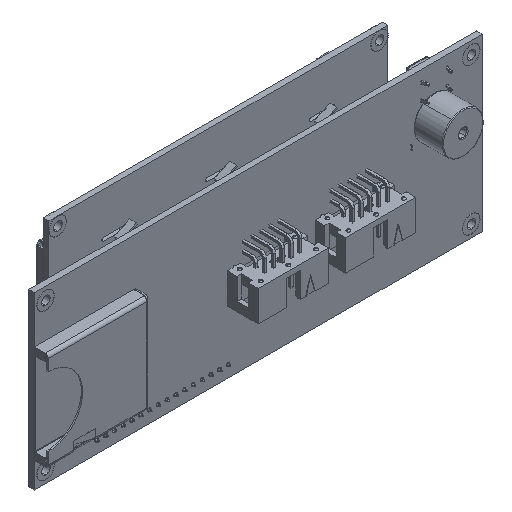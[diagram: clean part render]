
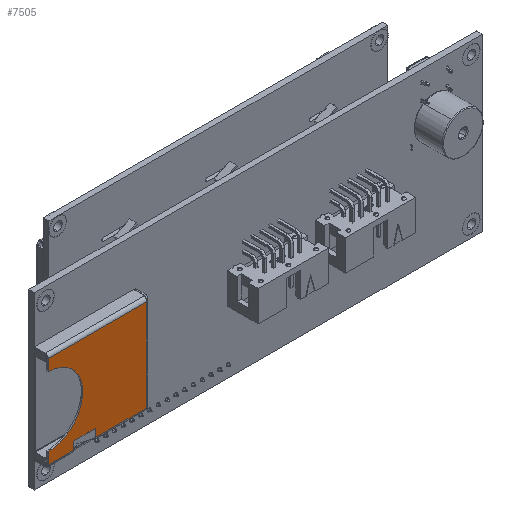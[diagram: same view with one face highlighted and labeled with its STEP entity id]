
A CAD part, isometric view. The second image highlights one B-rep face of the part: STEP entity #7505.
In plain terms, the highlighted planar face has unit normal (0, -1, 0) as drawn and (0, 1, 0) by its records, which use the part's own axes.
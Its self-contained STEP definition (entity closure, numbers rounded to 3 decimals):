
#199 = VERTEX_POINT ( 'NONE', #45401 ) ;
#1456 = EDGE_CURVE ( 'NONE', #7687, #42023, #34021, .T. ) ;
#2023 = EDGE_CURVE ( 'NONE', #11432, #199, #49751, .T. ) ;
#2856 = LINE ( 'NONE', #10275, #46959 ) ;
#4774 = CARTESIAN_POINT ( 'NONE',  ( -13.35, 0., 14.65 ) ) ;
#5148 = CARTESIAN_POINT ( 'NONE',  ( 13.35, 0., -13.75 ) ) ;
#5660 = CARTESIAN_POINT ( 'NONE',  ( 13.35, 0., 14.65 ) ) ;
#6330 = CARTESIAN_POINT ( 'NONE',  ( 0., 0., 14.65 ) ) ;
#6448 = EDGE_CURVE ( 'NONE', #26222, #51090, #35597, .T. ) ;
#6587 = DIRECTION ( 'NONE',  ( 0., 0., 1. ) ) ;
#6685 = ORIENTED_EDGE ( 'NONE', *, *, #51554, .T. ) ;
#7256 = EDGE_CURVE ( 'NONE', #55623, #51098, #18541, .T. ) ;
#7505 = ADVANCED_FACE ( 'NONE', ( #16449 ), #48122, .F. ) ;
#7687 = VERTEX_POINT ( 'NONE', #49161 ) ;
#8961 = LINE ( 'NONE', #9730, #19263 ) ;
#9730 = CARTESIAN_POINT ( 'NONE',  ( -14.25, 0., 14.65 ) ) ;
#9877 = VECTOR ( 'NONE', #52196, 1000. ) ;
#10151 = DIRECTION ( 'NONE',  ( 0., 0., 1. ) ) ;
#10275 = CARTESIAN_POINT ( 'NONE',  ( 13.35, 0., 14.65 ) ) ;
#10333 = ORIENTED_EDGE ( 'NONE', *, *, #2023, .F. ) ;
#10594 = CARTESIAN_POINT ( 'NONE',  ( 13.35, 0., -13.75 ) ) ;
#10719 = CARTESIAN_POINT ( 'NONE',  ( 11.091, 0., 0.95 ) ) ;
#10744 = DIRECTION ( 'NONE',  ( 0., 0., 1. ) ) ;
#10818 = CARTESIAN_POINT ( 'NONE',  ( 11.05, 0., 7.3 ) ) ;
#10995 = EDGE_CURVE ( 'NONE', #51090, #30072, #44974, .T. ) ;
#11432 = VERTEX_POINT ( 'NONE', #35531 ) ;
#12725 = VERTEX_POINT ( 'NONE', #33943 ) ;
#12815 = DIRECTION ( 'NONE',  ( 0., 0., -1. ) ) ;
#15794 = ORIENTED_EDGE ( 'NONE', *, *, #30298, .F. ) ;
#16449 = FACE_OUTER_BOUND ( 'NONE', #19160, .T. ) ;
#17107 = CARTESIAN_POINT ( 'NONE',  ( 11.05, 0., 0.95 ) ) ;
#17167 = CARTESIAN_POINT ( 'NONE',  ( 11.05, 0., 0.95 ) ) ;
#18541 = LINE ( 'NONE', #10818, #39202 ) ;
#19160 = EDGE_LOOP ( 'NONE', ( #32094, #26827, #15794, #23197, #41181, #6685, #55144, #46802, #56860, #10333, #55232 ) ) ;
#19263 = VECTOR ( 'NONE', #40695, 1000. ) ;
#19446 = EDGE_CURVE ( 'NONE', #52477, #7687, #44171, .T. ) ;
#19490 = DIRECTION ( 'NONE',  ( 1., 0., 0. ) ) ;
#19573 = CARTESIAN_POINT ( 'NONE',  ( 13.35, 0., 7.3 ) ) ;
#20671 = VECTOR ( 'NONE', #54948, 1000. ) ;
#20766 = VECTOR ( 'NONE', #41387, 1000. ) ;
#22046 = LINE ( 'NONE', #32998, #20671 ) ;
#23013 = EDGE_CURVE ( 'NONE', #12725, #51098, #2856, .T. ) ;
#23197 = ORIENTED_EDGE ( 'NONE', *, *, #10995, .F. ) ;
#23338 = DIRECTION ( 'NONE',  ( 0., 0., -1. ) ) ;
#23661 = VECTOR ( 'NONE', #6587, 1000. ) ;
#25218 = VECTOR ( 'NONE', #30724, 1000. ) ;
#26222 = VERTEX_POINT ( 'NONE', #42485 ) ;
#26329 = CARTESIAN_POINT ( 'NONE',  ( 11.05, 0., 0.95 ) ) ;
#26827 = ORIENTED_EDGE ( 'NONE', *, *, #7256, .F. ) ;
#27672 = CARTESIAN_POINT ( 'NONE',  ( 11.05, 0., 7.3 ) ) ;
#28632 = CARTESIAN_POINT ( 'NONE',  ( 11.05, 0., 7.3 ) ) ;
#30072 = VERTEX_POINT ( 'NONE', #17107 ) ;
#30298 = EDGE_CURVE ( 'NONE', #30072, #55623, #48285, .T. ) ;
#30338 = CARTESIAN_POINT ( 'NONE',  ( 0., 0., 0. ) ) ;
#30724 = DIRECTION ( 'NONE',  ( -1., 0., 0. ) ) ;
#30849 = EDGE_CURVE ( 'NONE', #11432, #12725, #8961, .T. ) ;
#32094 = ORIENTED_EDGE ( 'NONE', *, *, #23013, .T. ) ;
#32998 = CARTESIAN_POINT ( 'NONE',  ( -14.25, 0., 14.65 ) ) ;
#33943 = CARTESIAN_POINT ( 'NONE',  ( 13.35, 0., 14.65 ) ) ;
#34021 = LINE ( 'NONE', #41783, #23661 ) ;
#35234 = VECTOR ( 'NONE', #10151, 1000. ) ;
#35531 = CARTESIAN_POINT ( 'NONE',  ( 10., 0., 14.65 ) ) ;
#35597 = LINE ( 'NONE', #26329, #25218 ) ;
#37126 = DIRECTION ( 'NONE',  ( 0., 1., 0. ) ) ;
#38623 = VECTOR ( 'NONE', #23338, 1000. ) ;
#39202 = VECTOR ( 'NONE', #19490, 1000. ) ;
#39216 = DIRECTION ( 'NONE',  ( 0., -1., 0. ) ) ;
#39665 = DIRECTION ( 'NONE',  ( 0., 0., -1. ) ) ;
#39997 = LINE ( 'NONE', #5660, #38623 ) ;
#40695 = DIRECTION ( 'NONE',  ( 1., 0., 0. ) ) ;
#41181 = ORIENTED_EDGE ( 'NONE', *, *, #6448, .F. ) ;
#41387 = DIRECTION ( 'NONE',  ( -1., 0., 0. ) ) ;
#41783 = CARTESIAN_POINT ( 'NONE',  ( -13.35, 0., -13.75 ) ) ;
#42023 = VERTEX_POINT ( 'NONE', #4774 ) ;
#42485 = CARTESIAN_POINT ( 'NONE',  ( 13.35, 0., 0.95 ) ) ;
#44171 = LINE ( 'NONE', #10594, #20766 ) ;
#44187 = EDGE_CURVE ( 'NONE', #42023, #199, #22046, .T. ) ;
#44974 = LINE ( 'NONE', #17167, #9877 ) ;
#45401 = CARTESIAN_POINT ( 'NONE',  ( -10., 0., 14.65 ) ) ;
#46260 = AXIS2_PLACEMENT_3D ( 'NONE', #6330, #37126, #10744 ) ;
#46802 = ORIENTED_EDGE ( 'NONE', *, *, #1456, .T. ) ;
#46959 = VECTOR ( 'NONE', #39665, 1000. ) ;
#48122 = PLANE ( 'NONE',  #50345 ) ;
#48285 = LINE ( 'NONE', #27672, #35234 ) ;
#49161 = CARTESIAN_POINT ( 'NONE',  ( -13.35, 0., -13.75 ) ) ;
#49751 = CIRCLE ( 'NONE', #46260, 10. ) ;
#50345 = AXIS2_PLACEMENT_3D ( 'NONE', #30338, #39216, #12815 ) ;
#51090 = VERTEX_POINT ( 'NONE', #10719 ) ;
#51098 = VERTEX_POINT ( 'NONE', #19573 ) ;
#51554 = EDGE_CURVE ( 'NONE', #26222, #52477, #39997, .T. ) ;
#52196 = DIRECTION ( 'NONE',  ( -1., 0., 0. ) ) ;
#52477 = VERTEX_POINT ( 'NONE', #5148 ) ;
#54948 = DIRECTION ( 'NONE',  ( 1., 0., 0. ) ) ;
#55144 = ORIENTED_EDGE ( 'NONE', *, *, #19446, .T. ) ;
#55232 = ORIENTED_EDGE ( 'NONE', *, *, #30849, .T. ) ;
#55623 = VERTEX_POINT ( 'NONE', #28632 ) ;
#56860 = ORIENTED_EDGE ( 'NONE', *, *, #44187, .T. ) ;
